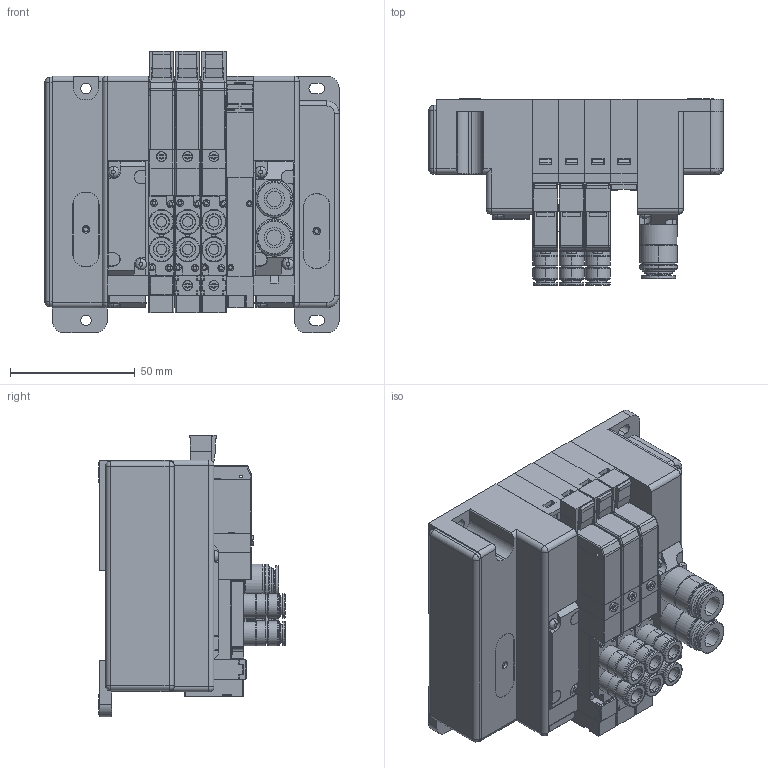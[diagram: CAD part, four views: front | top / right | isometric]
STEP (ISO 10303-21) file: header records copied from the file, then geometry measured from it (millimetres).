
FILE_DESCRIPTION( (''), '2;1');
FILE_NAME ('CVICAD02.9768.F10M4XN-JR_10275.stp','2020-08-31T10:41:01',(''),(''),'spGate 12.6.6','','');
FILE_SCHEMA (('AUTOMOTIVE_DESIGN'));
Length unit declared in the file: millimetre
Products named in the file (18): Assembly; F10_配管LASSY_ダイレクト; キャップ_DINねじ穴用; F10_EndCover; F10-PP; F10ZX_ValveBaseAssy; F10_VP; F10_配管RAssy_ダイレクト; F10_Adptor; F_3PortBody; F10_Cap; F10_SwitchBlock1; F10T_Body; F_Connector-PS; F10_Port-FJ; F10_SwitchBlock; F10XBPP; F10_Port-PJ
Assembly tree (39 placements, depth 2):
  Assembly
    F10_配管LASSY_ダイレクト
    キャップ_DINねじ穴用  x2
    F10_EndCover
    F10-PP  x3
    F10ZX_ValveBaseAssy  x4
    F10_VP  x4
    F10_配管RAssy_ダイレクト
    F10_Adptor  x3
    F_3PortBody  x3
    F10_Cap  x3
    F10_SwitchBlock1
    F10T_Body  x3
    F_Connector-PS  x3
    F10_Port-FJ  x3
    F10_SwitchBlock  x2
    F10XBPP
    F10_Port-PJ
Bounding box: 118 x 74.6 x 113 mm (x, y, z)
Volume: 349029.1 mm3; surface area: 140827.3 mm2
Topology: 38 solids, 39 shells, 3360 faces, 9031 edges, 6300 vertices
Faces by surface type: plane 2239, cylinder 835, bspline 272, sphere 14
Entity records: 78720 total; most frequent: CARTESIAN_POINT 10907, ORIENTED_EDGE 7851, DIRECTION 7023, COLOUR_RGB 5436, PRESENTATION_STYLE_ASSIGNMENT 5436, STYLED_ITEM 5436, EDGE_CURVE 3927, DRAUGHTING_PRE_DEFINED_CURVE_FONT 3927
